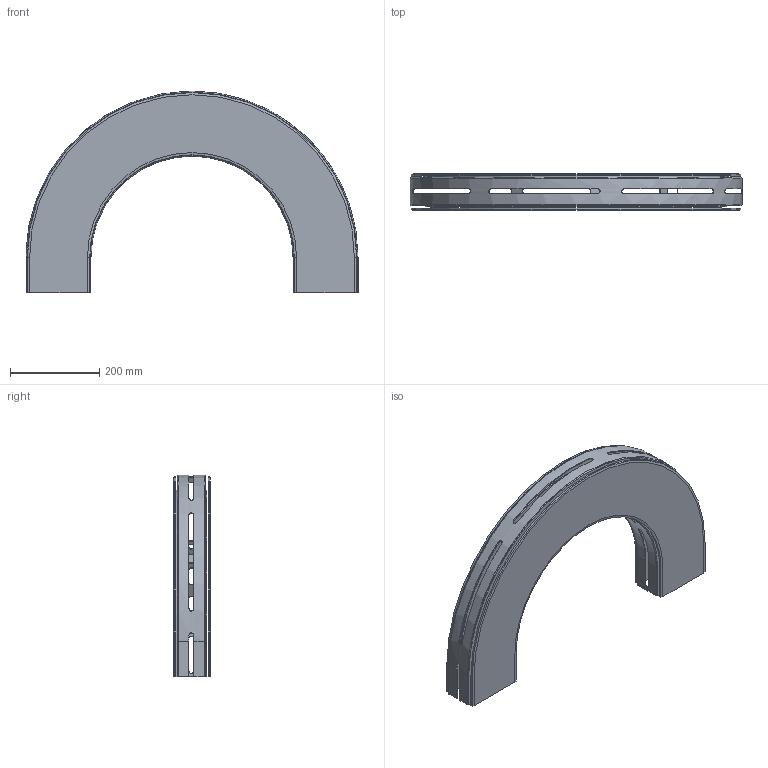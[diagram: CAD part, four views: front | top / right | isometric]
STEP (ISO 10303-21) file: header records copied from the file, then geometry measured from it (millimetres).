
FILE_DESCRIPTION(/* description */ ('GLIDKURVA SERIE 540'),/* implementation_level */ '2;1');
FILE_NAME(/* name */ '540-5375+140-2000-01.stp',/* time_stamp */ '2022-09-21T08:17:20+02:00',/* author */ ('Mathias.Dore'),/* organization */ ('CARRYLINE'),/* preprocessor_version */ 'ST-DEVELOPER v19.2',/* originating_system */ 'Autodesk Inventor 2023',/* authorisation */ '');
FILE_SCHEMA (('AUTOMOTIVE_DESIGN { 1 0 10303 214 3 1 1 }'));
Length unit declared in the file: millimetre
Products named in the file (1): 540-5375+140-2000-01
Bounding box: 746 x 82 x 453 mm (x, y, z)
Volume: 2489027.9 mm3; surface area: 1280188.4 mm2
Topology: 2 solids, 2 shells, 187 faces, 530 edges, 348 vertices
Faces by surface type: plane 119, cylinder 30, bspline 30, cone 4, torus 4
Entity records: 7061 total; most frequent: CARTESIAN_POINT 2180, ORIENTED_EDGE 1060, DIRECTION 894, EDGE_CURVE 530, LINE 362, VECTOR 362, VERTEX_POINT 348, AXIS2_PLACEMENT_3D 266
